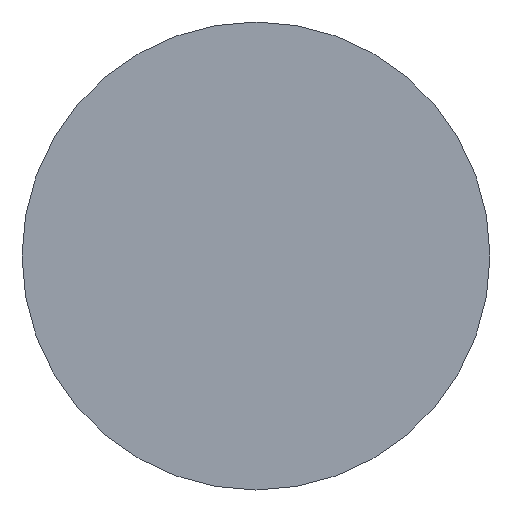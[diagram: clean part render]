
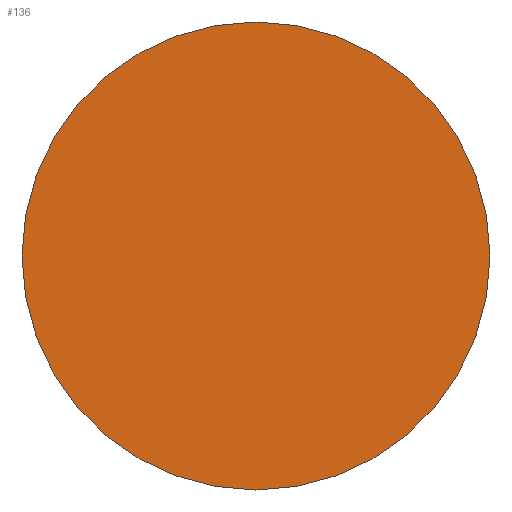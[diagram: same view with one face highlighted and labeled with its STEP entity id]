
A CAD part, left-side view. The second image highlights one B-rep face of the part: STEP entity #136.
In plain terms, the highlighted planar face has unit normal (-1, 0, 0).
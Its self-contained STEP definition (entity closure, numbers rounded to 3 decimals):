
#8 = EDGE_LOOP ( 'NONE', ( #22, #10 ) ) ;
#10 = ORIENTED_EDGE ( 'NONE', *, *, #133, .T. ) ;
#17 = CIRCLE ( 'NONE', #117, 5.5 ) ;
#22 = ORIENTED_EDGE ( 'NONE', *, *, #115, .T. ) ;
#38 = FACE_OUTER_BOUND ( 'NONE', #8, .T. ) ;
#41 = CIRCLE ( 'NONE', #128, 5.5 ) ;
#54 = DIRECTION ( 'NONE',  ( 0., 0., 1. ) ) ;
#55 = DIRECTION ( 'NONE',  ( -1., 0., 0. ) ) ;
#57 = PLANE ( 'NONE',  #118 ) ;
#58 = DIRECTION ( 'NONE',  ( 0., 0., 1. ) ) ;
#59 = DIRECTION ( 'NONE',  ( -1., 0., 0. ) ) ;
#60 = CARTESIAN_POINT ( 'NONE',  ( -524.5, 0., 0. ) ) ;
#63 = CARTESIAN_POINT ( 'NONE',  ( -524.5, 0., 0. ) ) ;
#71 = DIRECTION ( 'NONE',  ( 0., 0., 1. ) ) ;
#72 = DIRECTION ( 'NONE',  ( -1., 0., 0. ) ) ;
#73 = CARTESIAN_POINT ( 'NONE',  ( -524.5, 0., 0. ) ) ;
#77 = CARTESIAN_POINT ( 'NONE',  ( -524.5, 0., 5.5 ) ) ;
#85 = VERTEX_POINT ( 'NONE', #90 ) ;
#86 = VERTEX_POINT ( 'NONE', #77 ) ;
#90 = CARTESIAN_POINT ( 'NONE',  ( -524.5, 0., -5.5 ) ) ;
#115 = EDGE_CURVE ( 'NONE', #86, #85, #41, .T. ) ;
#117 = AXIS2_PLACEMENT_3D ( 'NONE', #63, #59, #58 ) ;
#118 = AXIS2_PLACEMENT_3D ( 'NONE', #60, #55, #54 ) ;
#128 = AXIS2_PLACEMENT_3D ( 'NONE', #73, #72, #71 ) ;
#133 = EDGE_CURVE ( 'NONE', #85, #86, #17, .T. ) ;
#136 = ADVANCED_FACE ( 'NONE', ( #38 ), #57, .T. ) ;
